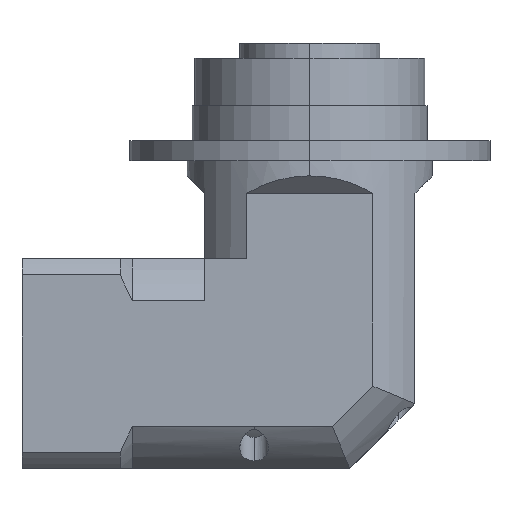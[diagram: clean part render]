
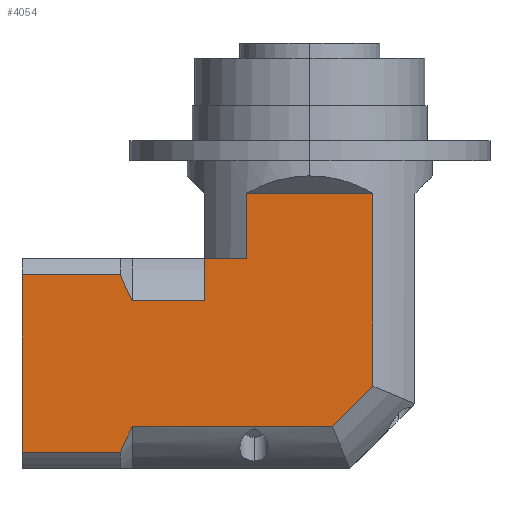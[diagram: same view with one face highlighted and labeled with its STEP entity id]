
A CAD part, left-side view. The second image highlights one B-rep face of the part: STEP entity #4054.
In plain terms, the highlighted planar face has unit normal (-1, 0, 0).
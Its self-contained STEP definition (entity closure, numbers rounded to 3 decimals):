
#72 = CARTESIAN_POINT ( 'NONE',  ( -21., 57.5, 3.245 ) ) ;
#112 = LINE ( 'NONE', #1803, #3484 ) ;
#128 = VERTEX_POINT ( 'NONE', #4706 ) ;
#148 = EDGE_CURVE ( 'NONE', #428, #4573, #112, .T. ) ;
#267 = VERTEX_POINT ( 'NONE', #3169 ) ;
#290 = VECTOR ( 'NONE', #1379, 1000. ) ;
#302 = CARTESIAN_POINT ( 'NONE',  ( -21., 37.036, 37.075 ) ) ;
#376 = ORIENTED_EDGE ( 'NONE', *, *, #3145, .F. ) ;
#428 = VERTEX_POINT ( 'NONE', #2999 ) ;
#509 = DIRECTION ( 'NONE',  ( 0., -1., 0. ) ) ;
#516 = CARTESIAN_POINT ( 'NONE',  ( -21., 12.619, 42. ) ) ;
#659 = CARTESIAN_POINT ( 'NONE',  ( -21., 12.619, 58.5 ) ) ;
#747 = VECTOR ( 'NONE', #509, 1000. ) ;
#875 = DIRECTION ( 'NONE',  ( 0., -1., 0. ) ) ;
#890 = CARTESIAN_POINT ( 'NONE',  ( -21., -12.619, 58.5 ) ) ;
#917 = VECTOR ( 'NONE', #2044, 1000. ) ;
#952 = VERTEX_POINT ( 'NONE', #1818 ) ;
#1136 = DIRECTION ( 'NONE',  ( 0., 1., 0. ) ) ;
#1157 = ORIENTED_EDGE ( 'NONE', *, *, #3835, .F. ) ;
#1203 = CARTESIAN_POINT ( 'NONE',  ( -21., 37.906, 3.245 ) ) ;
#1211 = DIRECTION ( 'NONE',  ( 1., 0., 0. ) ) ;
#1215 = CARTESIAN_POINT ( 'NONE',  ( -21., 35.5, 8.381 ) ) ;
#1249 = VECTOR ( 'NONE', #4083, 1000. ) ;
#1379 = DIRECTION ( 'NONE',  ( 0., -1., 0. ) ) ;
#1415 = EDGE_CURVE ( 'NONE', #128, #4773, #3689, .T. ) ;
#1475 = CARTESIAN_POINT ( 'NONE',  ( -21., 37.906, 38.755 ) ) ;
#1528 = LINE ( 'NONE', #3620, #2420 ) ;
#1537 = CARTESIAN_POINT ( 'NONE',  ( -21., 21., 8.381 ) ) ;
#1590 = VERTEX_POINT ( 'NONE', #3753 ) ;
#1597 = EDGE_CURVE ( 'NONE', #952, #5396, #4182, .T. ) ;
#1603 = CARTESIAN_POINT ( 'NONE',  ( -21., 21., 58.5 ) ) ;
#1679 = VECTOR ( 'NONE', #1136, 1000. ) ;
#1803 = CARTESIAN_POINT ( 'NONE',  ( -21., 21., 42. ) ) ;
#1818 = CARTESIAN_POINT ( 'NONE',  ( -21., -12.619, 16.471 ) ) ;
#1869 = ORIENTED_EDGE ( 'NONE', *, *, #5320, .F. ) ;
#1922 = LINE ( 'NONE', #1537, #1679 ) ;
#1925 = VERTEX_POINT ( 'NONE', #1203 ) ;
#1986 = DIRECTION ( 'NONE',  ( 0., 0., 1. ) ) ;
#1989 = CARTESIAN_POINT ( 'NONE',  ( -21., 35.5, 33.619 ) ) ;
#2020 = FACE_OUTER_BOUND ( 'NONE', #3567, .T. ) ;
#2031 = EDGE_CURVE ( 'NONE', #2633, #1925, #5028, .T. ) ;
#2044 = DIRECTION ( 'NONE',  ( 0., 0.707, -0.707 ) ) ;
#2046 = VECTOR ( 'NONE', #3808, 1000. ) ;
#2059 = ORIENTED_EDGE ( 'NONE', *, *, #2421, .F. ) ;
#2098 = DIRECTION ( 'NONE',  ( 0., 1., 0. ) ) ;
#2161 = VECTOR ( 'NONE', #2098, 1000. ) ;
#2172 = ORIENTED_EDGE ( 'NONE', *, *, #2031, .F. ) ;
#2200 = ORIENTED_EDGE ( 'NONE', *, *, #3563, .F. ) ;
#2219 = ORIENTED_EDGE ( 'NONE', *, *, #2226, .F. ) ;
#2226 = EDGE_CURVE ( 'NONE', #4573, #4962, #2765, .T. ) ;
#2240 = CARTESIAN_POINT ( 'NONE',  ( -21., 35.5, 8.381 ) ) ;
#2286 = DIRECTION ( 'NONE',  ( 0., -1., 0. ) ) ;
#2420 = VECTOR ( 'NONE', #2286, 1000. ) ;
#2421 = EDGE_CURVE ( 'NONE', #4962, #1590, #5197, .T. ) ;
#2458 = ORIENTED_EDGE ( 'NONE', *, *, #1415, .F. ) ;
#2491 = CARTESIAN_POINT ( 'NONE',  ( -21., 21., 3.245 ) ) ;
#2602 = CARTESIAN_POINT ( 'NONE',  ( -21., 37.906, 3.245 ) ) ;
#2633 = VERTEX_POINT ( 'NONE', #1215 ) ;
#2681 = ORIENTED_EDGE ( 'NONE', *, *, #1597, .F. ) ;
#2765 = LINE ( 'NONE', #659, #5270 ) ;
#2831 = EDGE_CURVE ( 'NONE', #4604, #3690, #3661, .T. ) ;
#2898 = DIRECTION ( 'NONE',  ( 0., 0., -1. ) ) ;
#2914 = ORIENTED_EDGE ( 'NONE', *, *, #148, .F. ) ;
#2933 = EDGE_CURVE ( 'NONE', #1925, #4604, #4178, .T. ) ;
#2999 = CARTESIAN_POINT ( 'NONE',  ( -21., 21., 42. ) ) ;
#3063 = CARTESIAN_POINT ( 'NONE',  ( -21., 12.619, 55. ) ) ;
#3117 = EDGE_CURVE ( 'NONE', #267, #428, #5334, .T. ) ;
#3145 = EDGE_CURVE ( 'NONE', #5396, #2633, #1922, .T. ) ;
#3146 = VECTOR ( 'NONE', #1986, 1000. ) ;
#3169 = CARTESIAN_POINT ( 'NONE',  ( -21., 21., 33.619 ) ) ;
#3373 = CARTESIAN_POINT ( 'NONE',  ( -21., 21., 55. ) ) ;
#3429 = LINE ( 'NONE', #4332, #747 ) ;
#3484 = VECTOR ( 'NONE', #875, 1000. ) ;
#3563 = EDGE_CURVE ( 'NONE', #4773, #267, #1528, .T. ) ;
#3567 = EDGE_LOOP ( 'NONE', ( #2059, #2219, #2914, #5440, #2200, #2458, #1157, #5427, #4695, #2172, #376, #2681, #1869 ) ) ;
#3620 = CARTESIAN_POINT ( 'NONE',  ( -21., 21., 33.619 ) ) ;
#3661 = LINE ( 'NONE', #5373, #3146 ) ;
#3689 = B_SPLINE_CURVE_WITH_KNOTS ( 'NONE', 3,
 ( #1475, #302, #4952, #1989 ),
 .UNSPECIFIED., .F., .F.,
 ( 4, 4 ),
 ( 0., 0.006 ),
 .UNSPECIFIED. ) ;
#3690 = VERTEX_POINT ( 'NONE', #3769 ) ;
#3753 = CARTESIAN_POINT ( 'NONE',  ( -21., -12.619, 55. ) ) ;
#3769 = CARTESIAN_POINT ( 'NONE',  ( -21., 57.5, 38.755 ) ) ;
#3808 = DIRECTION ( 'NONE',  ( 0., 0., -1. ) ) ;
#3835 = EDGE_CURVE ( 'NONE', #3690, #128, #3429, .T. ) ;
#3950 = CARTESIAN_POINT ( 'NONE',  ( -21., 37.036, 4.925 ) ) ;
#4054 = ADVANCED_FACE ( 'NONE', ( #2020 ), #5428, .F. ) ;
#4083 = DIRECTION ( 'NONE',  ( 0., 0., 1. ) ) ;
#4178 = LINE ( 'NONE', #2491, #2161 ) ;
#4182 = LINE ( 'NONE', #4678, #917 ) ;
#4183 = CARTESIAN_POINT ( 'NONE',  ( -21., 35.5, 33.619 ) ) ;
#4220 = AXIS2_PLACEMENT_3D ( 'NONE', #1603, #1211, #2898 ) ;
#4332 = CARTESIAN_POINT ( 'NONE',  ( -21., 21., 38.755 ) ) ;
#4429 = CARTESIAN_POINT ( 'NONE',  ( -21., -4.529, 8.381 ) ) ;
#4573 = VERTEX_POINT ( 'NONE', #516 ) ;
#4604 = VERTEX_POINT ( 'NONE', #72 ) ;
#4641 = LINE ( 'NONE', #890, #2046 ) ;
#4678 = CARTESIAN_POINT ( 'NONE',  ( -21., -12.619, 16.471 ) ) ;
#4695 = ORIENTED_EDGE ( 'NONE', *, *, #2933, .F. ) ;
#4706 = CARTESIAN_POINT ( 'NONE',  ( -21., 37.906, 38.755 ) ) ;
#4773 = VERTEX_POINT ( 'NONE', #4183 ) ;
#4776 = CARTESIAN_POINT ( 'NONE',  ( -21., 36.223, 6.631 ) ) ;
#4862 = CARTESIAN_POINT ( 'NONE',  ( -21., 21., 58.5 ) ) ;
#4952 = CARTESIAN_POINT ( 'NONE',  ( -21., 36.223, 35.369 ) ) ;
#4962 = VERTEX_POINT ( 'NONE', #3063 ) ;
#5028 = B_SPLINE_CURVE_WITH_KNOTS ( 'NONE', 3,
 ( #2240, #4776, #3950, #2602 ),
 .UNSPECIFIED., .F., .F.,
 ( 4, 4 ),
 ( 0., 0.006 ),
 .UNSPECIFIED. ) ;
#5197 = LINE ( 'NONE', #3373, #290 ) ;
#5270 = VECTOR ( 'NONE', #5281, 1000. ) ;
#5281 = DIRECTION ( 'NONE',  ( 0., 0., 1. ) ) ;
#5320 = EDGE_CURVE ( 'NONE', #1590, #952, #4641, .T. ) ;
#5334 = LINE ( 'NONE', #4862, #1249 ) ;
#5373 = CARTESIAN_POINT ( 'NONE',  ( -21., 57.5, 58.5 ) ) ;
#5396 = VERTEX_POINT ( 'NONE', #4429 ) ;
#5427 = ORIENTED_EDGE ( 'NONE', *, *, #2831, .F. ) ;
#5428 = PLANE ( 'NONE',  #4220 ) ;
#5440 = ORIENTED_EDGE ( 'NONE', *, *, #3117, .F. ) ;
